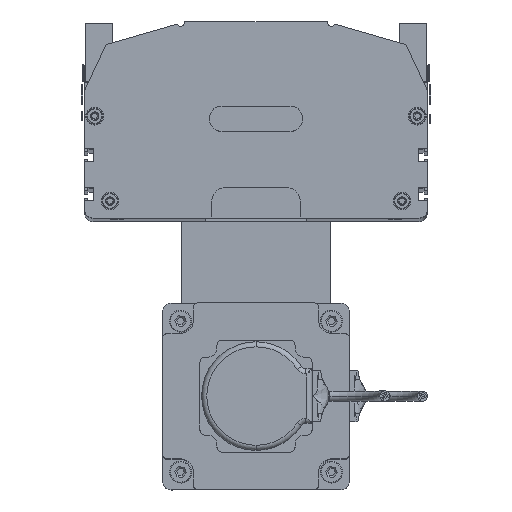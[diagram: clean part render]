
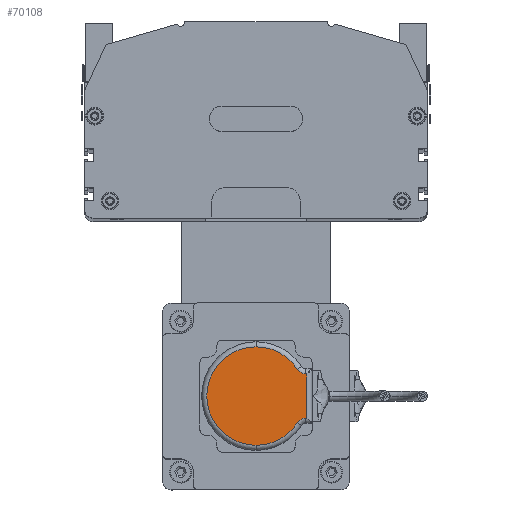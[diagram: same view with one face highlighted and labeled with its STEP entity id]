
A CAD part, top view. The second image highlights one B-rep face of the part: STEP entity #70108.
In plain terms, the highlighted planar face has unit normal (0, 0, 1).
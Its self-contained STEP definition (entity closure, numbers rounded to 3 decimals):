
#20942 = CARTESIAN_POINT ( 'NONE',  ( 4., 33., 25. ) ) ;
#20944 = CARTESIAN_POINT ( 'NONE',  ( 17.257, 57.355, 25. ) ) ;
#21105 = DIRECTION ( 'NONE',  ( 1., 0., 0. ) ) ;
#21106 = DIRECTION ( 'NONE',  ( 0., 0., 1. ) ) ;
#21107 = CARTESIAN_POINT ( 'NONE',  ( 33., 33., 25. ) ) ;
#21108 = AXIS2_PLACEMENT_3D ( 'NONE', #21107, #21106, #21105 ) ;
#21115 = CIRCLE ( 'NONE', #21108, 29. ) ;
#21149 = DIRECTION ( 'NONE',  ( 1., 0., 0. ) ) ;
#21150 = DIRECTION ( 'NONE',  ( 0., 0., 1. ) ) ;
#21155 = AXIS2_PLACEMENT_3D ( 'NONE', #21180, #21150, #21149 ) ;
#21167 = CARTESIAN_POINT ( 'NONE',  ( 20., 63., 25. ) ) ;
#21175 = DIRECTION ( 'NONE',  ( 1., 0., 0. ) ) ;
#21176 = DIRECTION ( 'NONE',  ( 0., 0., 1. ) ) ;
#21177 = CARTESIAN_POINT ( 'NONE',  ( 14., 62.394, 25. ) ) ;
#21180 = CARTESIAN_POINT ( 'NONE',  ( 33., 33., 25. ) ) ;
#21182 = CIRCLE ( 'NONE', #21188, 6. ) ;
#21188 = AXIS2_PLACEMENT_3D ( 'NONE', #21177, #21176, #21175 ) ;
#21201 = CIRCLE ( 'NONE', #21155, 29. ) ;
#21275 = DIRECTION ( 'NONE',  ( 1., 0., 0. ) ) ;
#21276 = DIRECTION ( 'NONE',  ( 0., 0., 1. ) ) ;
#21277 = CARTESIAN_POINT ( 'NONE',  ( 33., 33., 25. ) ) ;
#21278 = AXIS2_PLACEMENT_3D ( 'NONE', #21277, #21276, #21275 ) ;
#21283 = DIRECTION ( 'NONE',  ( 1., 0., 0. ) ) ;
#21291 = AXIS2_PLACEMENT_3D ( 'NONE', #21317, #21321, #21283 ) ;
#21316 = CARTESIAN_POINT ( 'NONE',  ( 48.743, 57.355, 25. ) ) ;
#21317 = CARTESIAN_POINT ( 'NONE',  ( 33., 33., 25. ) ) ;
#21318 = FACE_OUTER_BOUND ( 'NONE', #70059, .T. ) ;
#21321 = DIRECTION ( 'NONE',  ( 0., 0., 1. ) ) ;
#21322 = PLANE ( 'NONE',  #21291 ) ;
#21333 = CIRCLE ( 'NONE', #21278, 29. ) ;
#21336 = CARTESIAN_POINT ( 'NONE',  ( 46., 63., 25. ) ) ;
#21345 = CARTESIAN_POINT ( 'NONE',  ( 46., 62.394, 25. ) ) ;
#21348 = DIRECTION ( 'NONE',  ( 0., 1., 0. ) ) ;
#21349 = VECTOR ( 'NONE', #21348, 1000. ) ;
#21350 = CARTESIAN_POINT ( 'NONE',  ( 46., 33., 25. ) ) ;
#21361 = LINE ( 'NONE', #21350, #21349 ) ;
#21367 = CARTESIAN_POINT ( 'NONE',  ( 62., 33., 25. ) ) ;
#21551 = CIRCLE ( 'NONE', #21564, 6. ) ;
#21553 = CARTESIAN_POINT ( 'NONE',  ( 52., 62.394, 25. ) ) ;
#21564 = AXIS2_PLACEMENT_3D ( 'NONE', #21553, #21626, #21625 ) ;
#21568 = DIRECTION ( 'NONE',  ( -1., 0., 0. ) ) ;
#21569 = CARTESIAN_POINT ( 'NONE',  ( 17.5, 63., 25. ) ) ;
#21570 = LINE ( 'NONE', #21569, #21573 ) ;
#21573 = VECTOR ( 'NONE', #21568, 1000. ) ;
#21625 = DIRECTION ( 'NONE',  ( 1., 0., 0. ) ) ;
#21626 = DIRECTION ( 'NONE',  ( 0., 0., 1. ) ) ;
#21825 = CARTESIAN_POINT ( 'NONE',  ( 20., 62.394, 25. ) ) ;
#21900 = DIRECTION ( 'NONE',  ( 0., -1., 0. ) ) ;
#21906 = VECTOR ( 'NONE', #21900, 1000. ) ;
#21907 = CARTESIAN_POINT ( 'NONE',  ( 20., 33., 25. ) ) ;
#21908 = LINE ( 'NONE', #21907, #21906 ) ;
#69928 = EDGE_CURVE ( 'NONE', #69971, #69966, #21115, .T. ) ;
#69966 = VERTEX_POINT ( 'NONE', #20942 ) ;
#69971 = VERTEX_POINT ( 'NONE', #20944 ) ;
#70057 = EDGE_CURVE ( 'NONE', #69971, #70434, #21182, .T. ) ;
#70059 = EDGE_LOOP ( 'NONE', ( #70168, #70090, #70478, #70436, #70435, #70111, #70479, #70440 ) ) ;
#70065 = EDGE_CURVE ( 'NONE', #69966, #70071, #21201, .T. ) ;
#70071 = VERTEX_POINT ( 'NONE', #21367 ) ;
#70080 = VERTEX_POINT ( 'NONE', #21167 ) ;
#70086 = EDGE_CURVE ( 'NONE', #70089, #70101, #21361, .T. ) ;
#70089 = VERTEX_POINT ( 'NONE', #21345 ) ;
#70090 = ORIENTED_EDGE ( 'NONE', *, *, #69928, .T. ) ;
#70101 = VERTEX_POINT ( 'NONE', #21336 ) ;
#70108 = ADVANCED_FACE ( 'NONE', ( #21318 ), #21322, .T. ) ;
#70109 = VERTEX_POINT ( 'NONE', #21316 ) ;
#70110 = EDGE_CURVE ( 'NONE', #70071, #70109, #21333, .T. ) ;
#70111 = ORIENTED_EDGE ( 'NONE', *, *, #70086, .T. ) ;
#70168 = ORIENTED_EDGE ( 'NONE', *, *, #70057, .F. ) ;
#70312 = EDGE_CURVE ( 'NONE', #70101, #70080, #21570, .T. ) ;
#70326 = EDGE_CURVE ( 'NONE', #70089, #70109, #21551, .T. ) ;
#70434 = VERTEX_POINT ( 'NONE', #21825 ) ;
#70435 = ORIENTED_EDGE ( 'NONE', *, *, #70326, .F. ) ;
#70436 = ORIENTED_EDGE ( 'NONE', *, *, #70110, .T. ) ;
#70440 = ORIENTED_EDGE ( 'NONE', *, *, #70477, .T. ) ;
#70477 = EDGE_CURVE ( 'NONE', #70080, #70434, #21908, .T. ) ;
#70478 = ORIENTED_EDGE ( 'NONE', *, *, #70065, .T. ) ;
#70479 = ORIENTED_EDGE ( 'NONE', *, *, #70312, .T. ) ;
